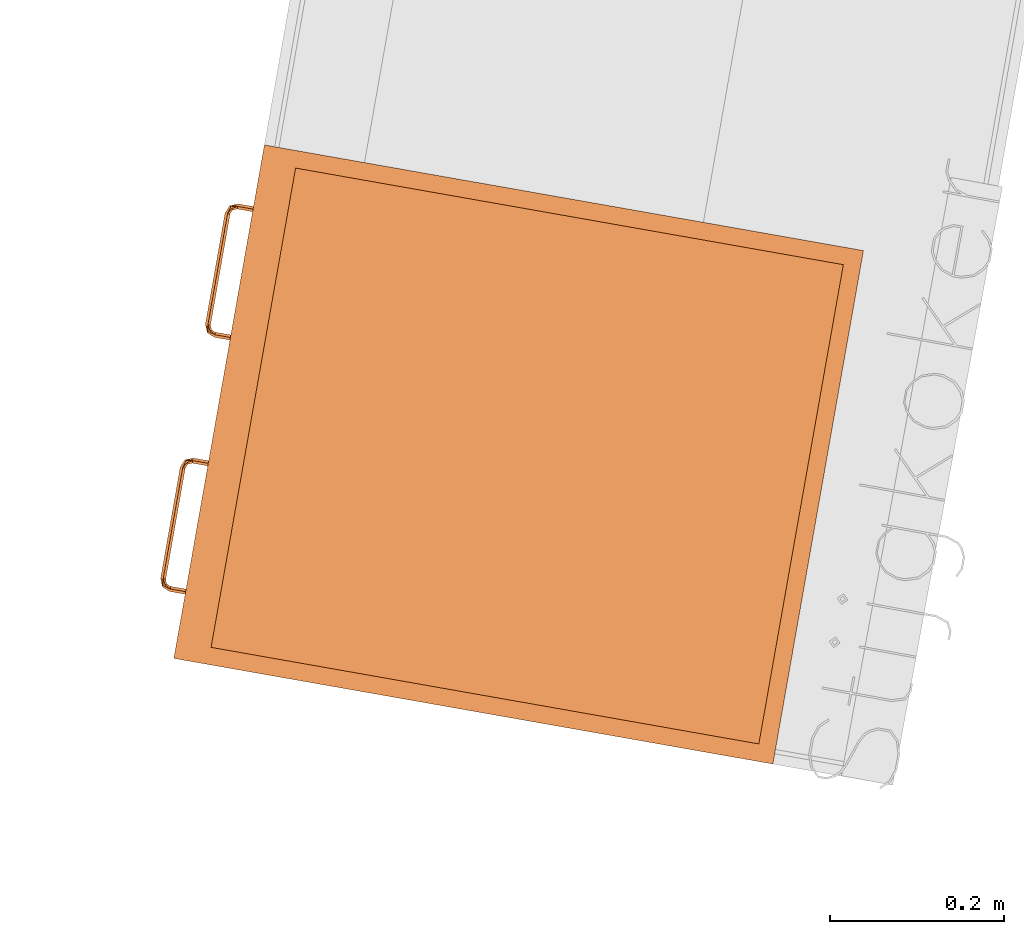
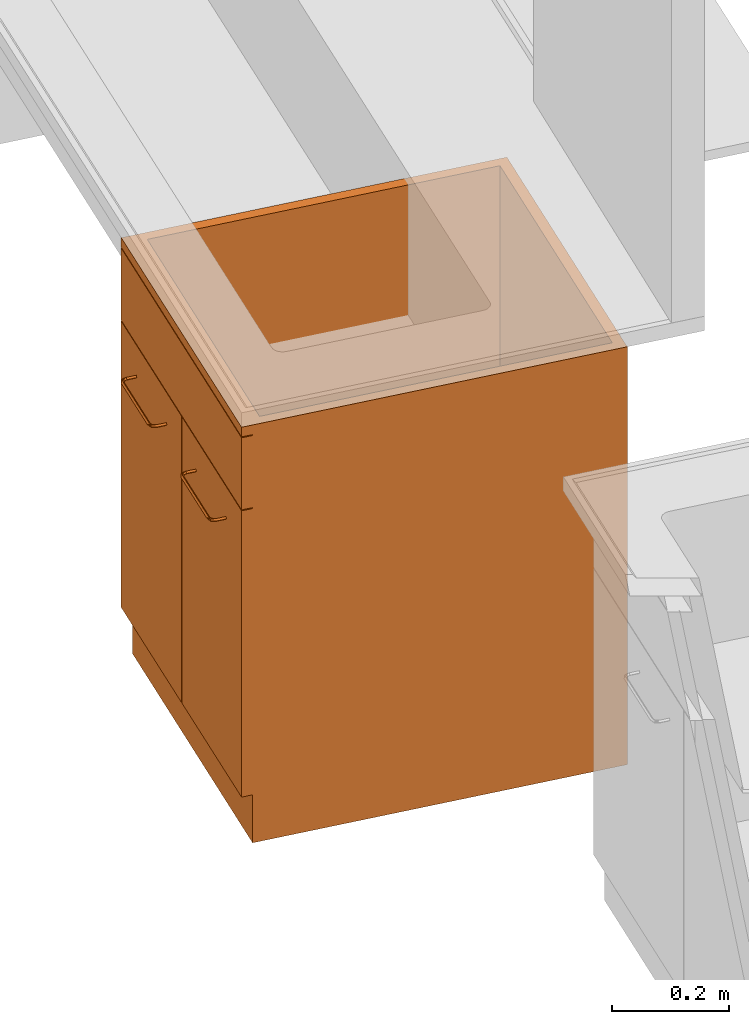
# One storey, part 19 of 32: 1 proxy.
"""IFC2X3 building model written with IfcOpenShell, lengths in metres."""

import ifcopenshell
import ifcopenshell.guid

model = None  # the IFC model being written
_history = None  # IfcOwnerHistory: only IFC2X3 demands one
_inside = {}  # id of a spatial element -> (the spatial element, [elements in it])
_under = {}  # id of a project, library or spatial element -> (it, [spatial elements below it])
_declared = {}  # id of a project -> (the project, [libraries it declares])
_typed = {}  # id of a type object -> (the type object, [elements of that type])
_made_of = {}  # id of a material, layer set ... -> (it, [elements and type objects made of it])


def new_model(schema):
    """Start an empty IFC model of exactly this schema.

    Asked for "IFC4X3", IfcOpenShell would pick the latest addendum, in which some entities
    have other attributes; the version numbers below select the first issue.
    IFC2X3 requires an IfcOwnerHistory on every rooted entity: one is made here for all.
    """
    global model, _history
    if schema == "IFC4X3":
        model = ifcopenshell.file(schema_version=(4, 3, 0, 0))
    else:
        model = ifcopenshell.file(schema=schema)
    _inside.clear()
    _under.clear()
    _declared.clear()
    _typed.clear()
    _made_of.clear()
    _history = None
    if model.schema == "IFC2X3":
        org = make("IfcOrganization", Name="unknown")
        user = make(
            "IfcPersonAndOrganization",
            ThePerson=make("IfcPerson", FamilyName="unknown"),
            TheOrganization=org,
        )
        app = make(
            "IfcApplication",
            ApplicationDeveloper=org,
            Version="unknown",
            ApplicationFullName="unknown",
            ApplicationIdentifier="unknown",
        )
        _history = make(
            "IfcOwnerHistory",
            OwningUser=user,
            OwningApplication=app,
            ChangeAction="ADDED",
            CreationDate=0,
        )
    return model


def make(cls, **values):
    """One entity of the class cls with the attributes given. An attribute that is None is left unset."""
    return model.create_entity(
        cls, **{name: value for name, value in values.items() if value is not None}
    )


def entity(cls, *values):
    """Any entity or typed value of the class cls, its attributes in the order of the schema. None: left unset."""
    e = model.create_entity(cls)
    for i, value in enumerate(values):
        if value is not None:
            e[i] = value
    return e


def rooted(cls, **values):
    """An entity with a GlobalId (a new one), such as an element, a storey or a relation."""
    return make(cls, GlobalId=ifcopenshell.guid.new(), OwnerHistory=_history, **values)


def si_unit(unit_type, name, prefix=None):
    """IfcSIUnit, for example si_unit("LENGTHUNIT", "METRE", prefix="MILLI")."""
    return make("IfcSIUnit", UnitType=unit_type, Prefix=prefix, Name=name)


def converted_unit(unit_type, name, factor, base, dimensions=None, offset=None):
    """IfcConversionBasedUnit, such as the inch: factor (a typed value) times the base unit."""
    return make(
        "IfcConversionBasedUnit"
        if offset is None
        else "IfcConversionBasedUnitWithOffset",
        ConversionOffset=offset,
        Dimensions=None
        if dimensions is None
        else entity("IfcDimensionalExponents", *dimensions),
        UnitType=unit_type,
        Name=name,
        ConversionFactor=make(
            "IfcMeasureWithUnit", ValueComponent=factor, UnitComponent=base
        ),
    )


def derived_unit(unit_type, elements):
    """IfcDerivedUnit: a product of units, each with its exponent."""
    return make(
        "IfcDerivedUnit",
        Elements=[
            make("IfcDerivedUnitElement", Unit=unit, Exponent=power)
            for unit, power in elements
        ],
        UnitType=unit_type,
    )


def assignment(units):
    """IfcUnitAssignment: the units of a project."""
    return None if units is None else make("IfcUnitAssignment", Units=units)


def point(xyz):
    """IfcCartesianPoint."""
    return None if xyz is None else make("IfcCartesianPoint", Coordinates=xyz)


def direction(xyz):
    """IfcDirection."""
    return None if xyz is None else make("IfcDirection", DirectionRatios=xyz)


def frame(location, z_axis=None, x_axis=None):
    """IfcAxis2Placement3D, a coordinate frame: its origin and axes. An axis left out is left unset."""
    return make(
        "IfcAxis2Placement3D",
        Location=point(location),
        Axis=direction(z_axis),
        RefDirection=direction(x_axis),
    )


def origin():
    """The frame at (0, 0, 0) with its axes left unset."""
    return frame((0.0, 0.0, 0.0))


def place(relative_to, where):
    """IfcLocalPlacement: puts the frame where relative to a parent placement (None: the world)."""
    return make(
        "IfcLocalPlacement", PlacementRelTo=relative_to, RelativePlacement=where
    )


def context(
    kind, dimensions, precision=None, world=None, true_north=None, identifier=None
):
    """IfcGeometricRepresentationContext, for example the 3D "Model" context."""
    return make(
        "IfcGeometricRepresentationContext",
        ContextIdentifier=identifier,
        ContextType=kind,
        CoordinateSpaceDimension=dimensions,
        Precision=precision,
        WorldCoordinateSystem=world,
        TrueNorth=true_north,
    )


def subcontext(parent, identifier, kind, view, scale=None):
    """IfcGeometricRepresentationSubContext, for example "Body" below "Model"."""
    return make(
        "IfcGeometricRepresentationSubContext",
        ContextIdentifier=identifier,
        ContextType=kind,
        ParentContext=parent,
        TargetScale=scale,
        TargetView=view,
    )


def project(units=None, contexts=None):
    """IfcProject with its units and contexts."""
    return rooted(
        "IfcProject",
        Name="project",
        RepresentationContexts=contexts,
        UnitsInContext=assignment(units),
    )


def spatial(cls, under=None, at=None, **own):
    """A site, building, storey or space (cls), placed at a placement, below another one or the project."""
    s = rooted(cls, ObjectPlacement=at, **own)
    if under is not None:
        _under.setdefault(under.id(), (under, []))[1].append(s)
    return s


def faces_of(points, faces, orient=None, outer=None):
    """IfcFace entities. A face is a list of loops; a loop is a list of indices into points, from 0.

    orient and outer hold one flag for each loop. By default every Orientation is true, the
    first loop of a face is its IfcFaceOuterBound and the others are IfcFaceBound.
    """
    made = []
    for i, loops in enumerate(faces):
        bounds = []
        for j, loop in enumerate(loops):
            is_outer = j == 0 if outer is None else outer[i][j]
            bounds.append(
                make(
                    "IfcFaceOuterBound" if is_outer else "IfcFaceBound",
                    Bound=make("IfcPolyLoop", Polygon=[points[k] for k in loop]),
                    Orientation=True if orient is None else orient[i][j],
                )
            )
        made.append(make("IfcFace", Bounds=bounds))
    return made


def faceted_brep(points, faces, orient=None, outer=None, voids=None):
    """IfcFacetedBrep: a solid bounded by flat faces; with voids (closed shells), ...WithVoids."""
    shared = [point(p) for p in points]
    hull = make("IfcClosedShell", CfsFaces=faces_of(shared, faces, orient, outer))
    if voids is None:
        return make("IfcFacetedBrep", Outer=hull)
    return make(
        "IfcFacetedBrepWithVoids",
        Outer=hull,
        Voids=[
            make(cls, CfsFaces=faces_of(shared, fs, o, b)) for cls, fs, o, b in voids
        ],
    )


def shape(context_of_items, identifier, shape_type, items):
    """IfcShapeRepresentation: the items that make up one representation, for example the "Body"."""
    return make(
        "IfcShapeRepresentation",
        ContextOfItems=context_of_items,
        RepresentationIdentifier=identifier,
        RepresentationType=shape_type,
        Items=items,
    )


def source(mapping_origin, context_of_items, identifier, shape_type, items):
    """IfcRepresentationMap: a shape defined once, which mapped items show again and again."""
    return make(
        "IfcRepresentationMap",
        MappingOrigin=mapping_origin,
        MappedRepresentation=shape(context_of_items, identifier, shape_type, items),
    )


def transform(
    local_origin,
    x_axis=None,
    y_axis=None,
    z_axis=None,
    scale=None,
    scale2=None,
    scale3=None,
    uniform=True,
):
    """IfcCartesianTransformationOperator3D, or its non-uniform kind. x_axis, y_axis, z_axis: its Axis1, 2, 3."""
    if uniform:
        return make(
            "IfcCartesianTransformationOperator3D",
            Axis1=direction(x_axis),
            Axis2=direction(y_axis),
            LocalOrigin=point(local_origin),
            Scale=scale,
            Axis3=direction(z_axis),
        )
    return make(
        "IfcCartesianTransformationOperator3DnonUniform",
        Axis1=direction(x_axis),
        Axis2=direction(y_axis),
        LocalOrigin=point(local_origin),
        Scale=scale,
        Axis3=direction(z_axis),
        Scale2=scale2,
        Scale3=scale3,
    )


def mapped(mapping_source, mapping_target):
    """IfcMappedItem: shows the shape of a source again, moved by a transform."""
    return make(
        "IfcMappedItem", MappingSource=mapping_source, MappingTarget=mapping_target
    )


def material(Name=None, Category=None):
    """IfcMaterial."""
    return make("IfcMaterial", Name=Name, Category=Category)


def material_list(materials):
    """IfcMaterialList."""
    return make("IfcMaterialList", Materials=materials)


def made_of(thing, what):
    """Note that an element or type object is made of a material, layer set ...; save() writes the relation."""
    if what is not None:
        _made_of.setdefault(what.id(), (what, []))[1].append(thing)
    return thing


def type_object(cls, material=None, **own):
    """A type object (cls), such as IfcWallType, which elements share."""
    return made_of(rooted(cls, **own), material)


def type_shapes(of_type, sources):
    """Give a type object the sources (RepresentationMaps) that its elements show as mapped items."""
    of_type.RepresentationMaps = sources


def element(
    cls,
    number,
    at=None,
    inside=None,
    cuts=None,
    type_object=None,
    material=None,
    context=None,
    identifier="Body",
    shape_type=None,
    held_by="IfcProductDefinitionShape",
    body=None,
    shapes=None,
    **own,
):
    """One element of the class cls, such as IfcWall. Its Tag is "e" and its number.

    at: its placement. inside: the storey or other place that contains it. cuts: it is an
    opening in that element (IfcRelVoidsElement). A single representation is given by context,
    identifier, shape_type and body (its items); several are given by shapes. held_by: the class
    of the entity that holds the representations. save() writes the other relations.
    """
    e = rooted(cls, Tag="e%d" % number, ObjectPlacement=at, **own)
    if body is not None:
        shapes = [shape(context, identifier, shape_type, body)]
    if shapes is not None:
        e.Representation = make(held_by, Representations=shapes)
    if inside is not None:
        _inside.setdefault(inside.id(), (inside, []))[1].append(e)
    if cuts is not None:
        rooted(
            "IfcRelVoidsElement", RelatingBuildingElement=cuts, RelatedOpeningElement=e
        )
    if type_object is not None:
        _typed.setdefault(type_object.id(), (type_object, []))[1].append(e)
    return made_of(e, material)


def aggregate(whole, parts):
    """IfcRelAggregates: a whole, such as a stair, and the parts it consists of."""
    return rooted("IfcRelAggregates", RelatingObject=whole, RelatedObjects=parts)


def save(model, path):
    """Write the relations noted so far, then the file.

    IfcRelAggregates (storeys below a building ...), IfcRelContainedInSpatialStructure (elements
    in a storey), IfcRelDefinesByType, IfcRelAssociatesMaterial and IfcRelDeclares: one each for
    every whole, place, type object, material and project.
    """
    for whole, parts in _under.values():
        aggregate(whole, parts)
    for where, things in _inside.values():
        rooted(
            "IfcRelContainedInSpatialStructure",
            RelatedElements=things,
            RelatingStructure=where,
        )
    for kind, things in _typed.values():
        rooted("IfcRelDefinesByType", RelatedObjects=things, RelatingType=kind)
    for what, things in _made_of.values():
        rooted("IfcRelAssociatesMaterial", RelatedObjects=things, RelatingMaterial=what)
    for by, libraries in _declared.values():
        rooted("IfcRelDeclares", RelatingContext=by, RelatedDefinitions=libraries)
    model.write(path)


model = new_model("IFC2X3")

# Units and contexts
model_context = context("Model", 3, precision=1e-05, world=origin(), true_north=direction((6.12303176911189e-17, 1.0)))
body_context = subcontext(model_context, "Body", "Model", "MODEL_VIEW")
ifc_project = project(units=[si_unit("LENGTHUNIT", "METRE"), si_unit("AREAUNIT", "SQUARE_METRE"), si_unit("VOLUMEUNIT", "CUBIC_METRE"), converted_unit("PLANEANGLEUNIT", "DEGREE", entity("IfcRatioMeasure", 0.0174532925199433), si_unit("PLANEANGLEUNIT", "RADIAN"), dimensions=[0, 0, 0, 0, 0, 0, 0]), si_unit("MASSUNIT", "GRAM", prefix="KILO"), derived_unit("MASSDENSITYUNIT", [(si_unit("MASSUNIT", "GRAM", prefix="KILO"), 1), (si_unit("LENGTHUNIT", "METRE"), -3)]), derived_unit("MOMENTOFINERTIAUNIT", [(si_unit("LENGTHUNIT", "METRE"), 4)]), si_unit("TIMEUNIT", "SECOND"), si_unit("FREQUENCYUNIT", "HERTZ"), si_unit("THERMODYNAMICTEMPERATUREUNIT", "DEGREE_CELSIUS"), derived_unit("THERMALTRANSMITTANCEUNIT", [(si_unit("MASSUNIT", "GRAM", prefix="KILO"), 1), (si_unit("THERMODYNAMICTEMPERATUREUNIT", "KELVIN"), -1), (si_unit("TIMEUNIT", "SECOND"), -3)]), derived_unit("VOLUMETRICFLOWRATEUNIT", [(si_unit("LENGTHUNIT", "METRE"), 3), (si_unit("TIMEUNIT", "SECOND"), -1)]), si_unit("ELECTRICCURRENTUNIT", "AMPERE"), si_unit("ELECTRICVOLTAGEUNIT", "VOLT"), si_unit("POWERUNIT", "WATT"), si_unit("FORCEUNIT", "NEWTON", prefix="KILO"), si_unit("ILLUMINANCEUNIT", "LUX"), si_unit("LUMINOUSFLUXUNIT", "LUMEN"), si_unit("LUMINOUSINTENSITYUNIT", "CANDELA"), derived_unit("USERDEFINED", [(si_unit("MASSUNIT", "GRAM", prefix="KILO"), -1), (si_unit("LENGTHUNIT", "METRE"), -2), (si_unit("TIMEUNIT", "SECOND"), 3), (si_unit("LUMINOUSFLUXUNIT", "LUMEN"), 1)]), derived_unit("LINEARVELOCITYUNIT", [(si_unit("LENGTHUNIT", "METRE"), 1), (si_unit("TIMEUNIT", "SECOND"), -1)]), si_unit("PRESSUREUNIT", "PASCAL"), derived_unit("USERDEFINED", [(si_unit("LENGTHUNIT", "METRE"), -2), (si_unit("MASSUNIT", "GRAM", prefix="KILO"), 1), (si_unit("TIMEUNIT", "SECOND"), -2)]), derived_unit("LINEARFORCEUNIT", [(si_unit("MASSUNIT", "GRAM", prefix="KILO"), 1), (si_unit("LENGTHUNIT", "METRE"), 1), (si_unit("TIMEUNIT", "SECOND"), -2), (si_unit("LENGTHUNIT", "METRE"), -1)]), derived_unit("PLANARFORCEUNIT", [(si_unit("MASSUNIT", "GRAM", prefix="KILO"), 1), (si_unit("LENGTHUNIT", "METRE"), 1), (si_unit("TIMEUNIT", "SECOND"), -2), (si_unit("LENGTHUNIT", "METRE"), -2)])], contexts=[model_context])

# Site, building, storey
site_placement = place(None, origin())
site = spatial("IfcSite", under=ifc_project, at=site_placement, Name="Default", CompositionType="ELEMENT")
building_placement = place(site_placement, origin())
building = spatial("IfcBuilding", under=site, at=building_placement, CompositionType="ELEMENT")
storey_placement = place(building_placement, origin())
storey = spatial("IfcBuildingStorey", under=building, at=storey_placement, Name="00 EG", CompositionType="ELEMENT", Elevation=0.0)

# Proxy
ifc_material_1 = material(Name="dh_Griff")
ifc_material_2 = material(Name="dh_Weiß")
ifc_material_3 = material(Name="dh_Grau")
ifc_material_list_1 = material_list([ifc_material_1, ifc_material_2, ifc_material_3])
ifc_material_list_2 = material_list([ifc_material_2, ifc_material_1])
building_element_proxy_type = type_object("IfcBuildingElementProxyType", Name="dh_UB-Becken:UB12-TM", PredefinedType="NOTDEFINED", material=ifc_material_list_2)
shared_shape = source(origin(), body_context, "Body", "Brep", [
    faceted_brep([(0.0749999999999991, -0.699999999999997, 0.630000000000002), (0.0719999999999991, -0.699999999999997, 0.627000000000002), (0.0689999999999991, -0.699999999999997, 0.630000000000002), (0.0719999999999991, -0.699999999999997, 0.633000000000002), (0.224999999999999, -0.699999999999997, 0.630000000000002), (0.221999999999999, -0.699999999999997, 0.627000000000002), (0.218999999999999, -0.699999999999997, 0.630000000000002), (0.221999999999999, -0.699999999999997, 0.633000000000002), (0.068999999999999, -0.717999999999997, 0.630000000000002), (0.07025591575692, -0.717999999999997, 0.631255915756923), (0.071999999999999, -0.717999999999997, 0.633000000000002), (0.0749999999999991, -0.717999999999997, 0.630000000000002), (0.0719999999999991, -0.717999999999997, 0.627000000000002), (0.0728076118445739, -0.727192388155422, 0.630000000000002), (0.0730984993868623, -0.725576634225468, 0.632479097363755), (0.075614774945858, -0.724385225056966, 0.632838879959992), (0.0819999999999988, -0.727999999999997, 0.633000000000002), (0.0819999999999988, -0.730999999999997, 0.630000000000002), (0.0770502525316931, -0.722949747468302, 0.630000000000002), (0.0819999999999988, -0.724999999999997, 0.630000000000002), (0.0758127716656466, -0.724187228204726, 0.627272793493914), (0.0738328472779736, -0.726167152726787, 0.62743149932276), (0.0819999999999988, -0.727999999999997, 0.627000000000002), (0.166641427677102, -0.728000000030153, 0.633000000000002), (0.14700000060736, -0.730999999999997, 0.630000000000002), (0.181760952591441, -0.730999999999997, 0.630000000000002), (0.112239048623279, -0.730999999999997, 0.630000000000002), (0.129619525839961, -0.728000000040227, 0.633000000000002), (0.142478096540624, -0.730999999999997, 0.630000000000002), (0.112239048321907, -0.724999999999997, 0.630000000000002), (0.211999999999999, -0.727999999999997, 0.633000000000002), (0.211999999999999, -0.724999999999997, 0.630000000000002), (0.181760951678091, -0.724999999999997, 0.630000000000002), (0.1515219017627, -0.724999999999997, 0.630000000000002), (0.146999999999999, -0.724999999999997, 0.630000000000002), (0.211999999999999, -0.730999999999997, 0.630000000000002), (0.211999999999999, -0.729744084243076, 0.631255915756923), (0.12735857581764, -0.727999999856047, 0.627000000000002), (0.211999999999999, -0.727999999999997, 0.627000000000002), (0.164380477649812, -0.727999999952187, 0.627000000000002), (0.221192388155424, -0.727192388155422, 0.630000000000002), (0.21957663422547, -0.726901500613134, 0.632479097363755), (0.218385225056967, -0.724385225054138, 0.632838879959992), (0.221999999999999, -0.717999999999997, 0.633000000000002), (0.224999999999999, -0.717999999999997, 0.630000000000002), (0.216949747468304, -0.722949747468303, 0.630000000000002), (0.218999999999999, -0.717999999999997, 0.630000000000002), (0.218187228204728, -0.724187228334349, 0.627272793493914), (0.220167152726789, -0.726167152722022, 0.62743149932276), (0.221999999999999, -0.717999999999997, 0.627000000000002)], [[[0, 1, 2, 3]], [[4, 5, 6, 7]], [[2, 8, 9, 10, 3]], [[3, 10, 11, 0]], [[11, 12, 1, 0]], [[1, 12, 8, 2]], [[9, 8, 13]], [[10, 14, 15]], [[9, 14, 10]], [[11, 10, 15]], [[14, 9, 13]], [[15, 14, 16]], [[17, 16, 14]], [[11, 15, 18]], [[18, 15, 19]], [[17, 14, 13]], [[19, 15, 16]], [[12, 20, 21]], [[17, 21, 22]], [[8, 12, 21]], [[11, 18, 20]], [[19, 22, 20]], [[8, 21, 13]], [[13, 21, 17]], [[19, 20, 18]], [[21, 20, 22]], [[11, 20, 12]], [[23, 24, 25]], [[26, 27, 16]], [[27, 26, 28, 24, 23]], [[29, 19, 16]], [[30, 31, 32]], [[27, 33, 34, 29]], [[33, 23, 32]], [[25, 35, 36, 30]], [[16, 17, 26]], [[33, 27, 23]], [[16, 27, 29]], [[23, 25, 30]], [[32, 23, 30]], [[34, 37, 29]], [[26, 17, 22]], [[38, 35, 25]], [[39, 34, 33, 32]], [[37, 28, 26]], [[39, 38, 25]], [[37, 26, 22]], [[22, 19, 29]], [[32, 31, 38]], [[38, 39, 32]], [[39, 25, 24, 28]], [[37, 22, 29]], [[34, 39, 37]], [[39, 28, 37]], [[36, 35, 40]], [[30, 41, 42]], [[36, 41, 30]], [[31, 30, 42]], [[41, 36, 40]], [[42, 41, 43]], [[44, 43, 41]], [[31, 42, 45]], [[45, 42, 46]], [[44, 41, 40]], [[46, 42, 43]], [[38, 47, 48]], [[44, 48, 49]], [[35, 38, 48]], [[31, 45, 47]], [[46, 49, 47]], [[35, 48, 40]], [[40, 48, 44]], [[46, 47, 45]], [[48, 47, 49]], [[31, 47, 38]], [[4, 7, 43, 44]], [[43, 7, 6, 46]], [[6, 5, 49, 46]], [[49, 5, 4, 44]]]),
    faceted_brep([(-0.222000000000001, -0.699999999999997, 0.630000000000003), (-0.225000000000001, -0.699999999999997, 0.627000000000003), (-0.228000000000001, -0.699999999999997, 0.630000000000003), (-0.225000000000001, -0.699999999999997, 0.633000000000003), (-0.0720000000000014, -0.699999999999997, 0.630000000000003), (-0.0750000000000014, -0.699999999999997, 0.627000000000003), (-0.0780000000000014, -0.699999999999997, 0.630000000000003), (-0.0750000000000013, -0.699999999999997, 0.633000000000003), (-0.228000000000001, -0.717999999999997, 0.630000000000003), (-0.22674408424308, -0.717999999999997, 0.631255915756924), (-0.225000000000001, -0.717999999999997, 0.633000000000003), (-0.222000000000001, -0.717999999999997, 0.630000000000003), (-0.225000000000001, -0.717999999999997, 0.627000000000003), (-0.224192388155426, -0.727192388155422, 0.630000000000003), (-0.223901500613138, -0.725576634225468, 0.632479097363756), (-0.221385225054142, -0.724385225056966, 0.632838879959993), (-0.215000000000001, -0.727999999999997, 0.633000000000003), (-0.215000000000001, -0.730999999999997, 0.630000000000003), (-0.219949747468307, -0.722949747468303, 0.630000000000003), (-0.215000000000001, -0.724999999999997, 0.630000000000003), (-0.221187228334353, -0.724187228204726, 0.627272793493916), (-0.223167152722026, -0.726167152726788, 0.627431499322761), (-0.215000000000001, -0.727999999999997, 0.627000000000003), (-0.130358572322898, -0.728000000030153, 0.633000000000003), (-0.14999999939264, -0.730999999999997, 0.630000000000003), (-0.115239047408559, -0.730999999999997, 0.630000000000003), (-0.184760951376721, -0.730999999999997, 0.630000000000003), (-0.167380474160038, -0.728000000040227, 0.633000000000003), (-0.154521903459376, -0.730999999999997, 0.630000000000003), (-0.184760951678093, -0.724999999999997, 0.630000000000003), (-0.0850000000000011, -0.727999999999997, 0.633000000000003), (-0.0850000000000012, -0.724999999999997, 0.630000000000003), (-0.115239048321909, -0.724999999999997, 0.630000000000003), (-0.1454780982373, -0.724999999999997, 0.630000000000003), (-0.150000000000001, -0.724999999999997, 0.630000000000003), (-0.0850000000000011, -0.730999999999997, 0.630000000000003), (-0.0850000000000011, -0.729744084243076, 0.631255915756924), (-0.16964142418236, -0.727999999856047, 0.627000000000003), (-0.0850000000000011, -0.727999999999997, 0.627000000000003), (-0.132619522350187, -0.727999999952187, 0.627000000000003), (-0.0758076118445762, -0.727192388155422, 0.630000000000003), (-0.0774233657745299, -0.726901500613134, 0.632479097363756), (-0.0786147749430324, -0.724385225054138, 0.632838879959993), (-0.0750000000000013, -0.717999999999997, 0.633000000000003), (-0.0720000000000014, -0.717999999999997, 0.630000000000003), (-0.0800502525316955, -0.722949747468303, 0.630000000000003), (-0.0780000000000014, -0.717999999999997, 0.630000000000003), (-0.0788127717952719, -0.72418722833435, 0.627272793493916), (-0.0768328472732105, -0.726167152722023, 0.627431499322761), (-0.0750000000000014, -0.717999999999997, 0.627000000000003)], [[[0, 1, 2, 3]], [[4, 5, 6, 7]], [[2, 8, 9, 10, 3]], [[3, 10, 11, 0]], [[11, 12, 1, 0]], [[1, 12, 8, 2]], [[9, 8, 13]], [[10, 14, 15]], [[9, 14, 10]], [[11, 10, 15]], [[14, 9, 13]], [[15, 14, 16]], [[17, 16, 14]], [[11, 15, 18]], [[18, 15, 19]], [[17, 14, 13]], [[19, 15, 16]], [[12, 20, 21]], [[17, 21, 22]], [[8, 12, 21]], [[11, 18, 20]], [[19, 22, 20]], [[8, 21, 13]], [[13, 21, 17]], [[19, 20, 18]], [[21, 20, 22]], [[11, 20, 12]], [[23, 24, 25]], [[26, 27, 16]], [[27, 26, 28, 24, 23]], [[29, 19, 16]], [[30, 31, 32]], [[27, 33, 34, 29]], [[33, 23, 32]], [[25, 35, 36, 30]], [[16, 17, 26]], [[33, 27, 23]], [[16, 27, 29]], [[23, 25, 30]], [[32, 23, 30]], [[34, 37, 29]], [[26, 17, 22]], [[38, 35, 25]], [[39, 34, 33, 32]], [[37, 28, 26]], [[39, 38, 25]], [[37, 26, 22]], [[22, 19, 29]], [[32, 31, 38]], [[38, 39, 32]], [[39, 25, 24, 28]], [[37, 22, 29]], [[34, 39, 37]], [[39, 28, 37]], [[36, 35, 40]], [[30, 41, 42]], [[36, 41, 30]], [[31, 30, 42]], [[41, 36, 40]], [[42, 41, 43]], [[44, 43, 41]], [[31, 42, 45]], [[45, 42, 46]], [[44, 41, 40]], [[46, 42, 43]], [[38, 47, 48]], [[44, 48, 49]], [[35, 38, 48]], [[31, 45, 47]], [[46, 49, 47]], [[35, 48, 40]], [[40, 48, 44]], [[46, 47, 45]], [[48, 47, 49]], [[31, 47, 38]], [[4, 7, 43, 44]], [[43, 7, 6, 46]], [[6, 5, 49, 46]], [[49, 5, 4, 44]]]),
    faceted_brep([(0.299999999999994, -0.680000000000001, 0.696000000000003), (0.299999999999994, -0.680000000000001, 0.1), (0.00200000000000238, -0.68, 0.1), (0.00200000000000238, -0.68, 0.696000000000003), (0.299999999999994, -0.700000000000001, 0.696000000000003), (0.00200000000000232, -0.7, 0.696000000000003), (0.00200000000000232, -0.7, 0.1), (0.299999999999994, -0.700000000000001, 0.1)], [[[0, 1, 2, 3]], [[4, 5, 6, 7]], [[1, 0, 4, 7]], [[2, 1, 7, 6]], [[3, 2, 6, 5]], [[0, 3, 5, 4]]]),
    faceted_brep([(0.0, -0.68, 0.1), (0.0, -0.68, 0.696000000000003), (0.0, -0.7, 0.696000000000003), (0.0, -0.7, 0.1), (-0.300000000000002, -0.679999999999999, 0.1), (-0.300000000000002, -0.699999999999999, 0.1), (-0.300000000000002, -0.679999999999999, 0.696000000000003), (-0.300000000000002, -0.699999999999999, 0.696000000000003)], [[[0, 1, 2, 3]], [[4, 0, 3, 5]], [[6, 4, 5, 7]], [[1, 6, 7, 2]], [[2, 7, 5, 3]], [[1, 0, 4, 6]]]),
    faceted_brep([(0.299999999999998, -0.699999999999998, 0.848000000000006), (-0.300000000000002, -0.699999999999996, 0.848000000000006), (-0.300000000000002, -0.699999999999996, 0.698000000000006), (0.299999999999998, -0.699999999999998, 0.698000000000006), (0.299999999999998, -0.679999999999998, 0.848000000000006), (0.299999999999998, -0.679999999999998, 0.698000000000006), (-0.300000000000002, -0.679999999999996, 0.698000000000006), (-0.300000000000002, -0.679999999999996, 0.848000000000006)], [[[0, 1, 2, 3]], [[4, 5, 6, 7]], [[5, 4, 0, 3]], [[6, 5, 3, 2]], [[7, 6, 2, 1]], [[4, 7, 1, 0]]]),
    faceted_brep([(0.300000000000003, 0.0, 0.870000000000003), (-0.299999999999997, 0.0, 0.870000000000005), (-0.300000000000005, -0.699999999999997, 0.870000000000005), (0.299999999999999, -0.699999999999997, 0.870000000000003), (-0.279999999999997, -0.0199571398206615, 0.870000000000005), (0.280000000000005, -0.0199571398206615, 0.870000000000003), (0.280000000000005, -0.659999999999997, 0.870000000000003), (-0.279999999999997, -0.659999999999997, 0.870000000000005), (0.3, 0.0, 0.0999999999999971), (0.3, -0.679999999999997, 0.0999999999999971), (-0.3, -0.679999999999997, 0.099999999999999), (-0.3, 0.0, 0.099999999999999), (-0.300000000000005, -0.679999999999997, 0.850000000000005), (-0.300000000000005, -0.699999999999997, 0.850000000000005), (0.300000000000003, -0.679999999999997, 0.850000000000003), (0.299999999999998, -0.699999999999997, 0.850000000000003), (0.280000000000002, -0.0199571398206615, 0.120000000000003), (-0.28, -0.0199571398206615, 0.120000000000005), (-0.28, -0.659999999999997, 0.120000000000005), (0.280000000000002, -0.659999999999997, 0.120000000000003)], [[[0, 1, 2, 3], [4, 5, 6, 7]], [[8, 9, 10, 11]], [[1, 0, 8, 11]], [[2, 1, 11, 10, 12, 13]], [[10, 9, 14, 12]], [[0, 3, 15, 14, 9, 8]], [[16, 17, 18, 19]], [[17, 16, 5, 4]], [[18, 17, 4, 7]], [[19, 18, 7, 6]], [[16, 19, 6, 5]], [[14, 15, 13, 12]], [[3, 2, 13, 15]]]),
    faceted_brep([(0.3, 0.0, 0.1), (-0.3, 0.0, 0.1), (-0.3, -0.679999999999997, 0.1), (0.3, -0.679999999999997, 0.1), (0.3, 0.0, 0.0), (0.3, -0.679999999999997, 0.0), (-0.3, -0.679999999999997, 0.0), (-0.3, 0.0, 0.0)], [[[0, 1, 2, 3]], [[4, 5, 6, 7]], [[1, 0, 4, 7]], [[2, 1, 7, 6]], [[3, 2, 6, 5]], [[0, 3, 5, 4]]]),
])
type_shapes(building_element_proxy_type, [shared_shape])
proxy_placement = place(storey_placement, frame((27.0243769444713, 19.3135425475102, 0.0), z_axis=(0.0, 0.0, 1.0), x_axis=(-0.173648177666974, -0.9848077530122, 0.0)))
element("IfcBuildingElementProxy", 1, at=proxy_placement, inside=storey, type_object=building_element_proxy_type, material=ifc_material_list_1, Name="dh_UB-Becken:UB12-TM", ObjectType="dh_UB-Becken:UB12-TM", context=body_context, shape_type="MappedRepresentation", body=[
    mapped(shared_shape, transform((0.0, 0.0, 0.0), scale=1.0)),
])

save(model, "model.ifc")
